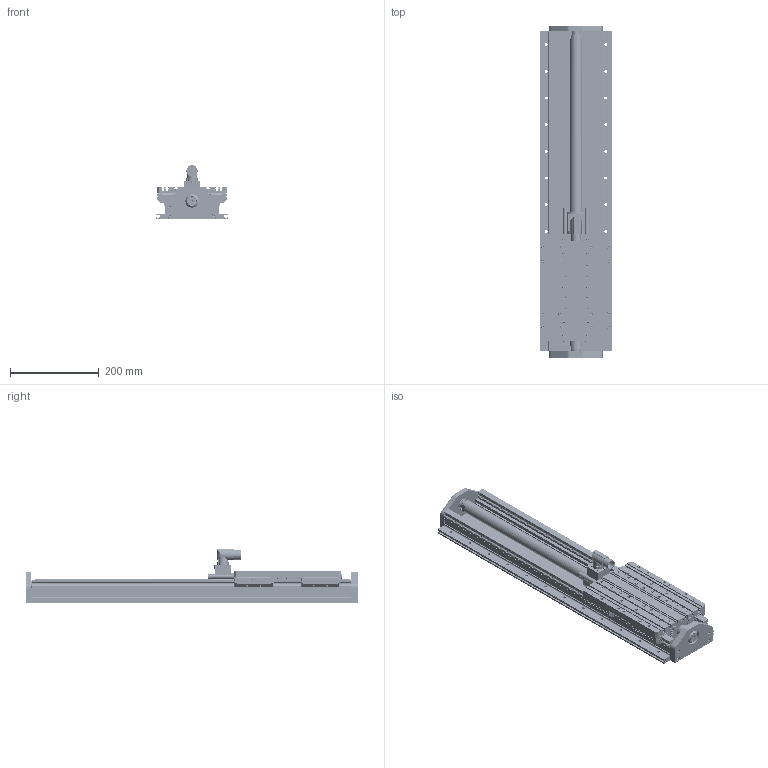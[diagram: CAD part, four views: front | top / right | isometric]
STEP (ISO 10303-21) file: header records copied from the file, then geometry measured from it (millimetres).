
FILE_DESCRIPTION(/* description */ (''),/* implementation_level */ '2;1');
FILE_NAME(/* name */ 'V:\CAD\Inventor-Stp\Linearmotorelement\GLMA 48-240\5000063.stp',/* time_stamp */ '2024-10-22T08:17:46+02:00',/* author */ ('ul'),/* organization */ (''),/* preprocessor_version */ 'ST-DEVELOPER v17',/* originating_system */ 'Autodesk Inventor 2018',/* authorisation */ '');
FILE_SCHEMA (('AUTOMOTIVE_DESIGN { 1 0 10303 214 3 1 1 }'));
Products named in the file (1): 5000063
Bounding box: 160 x 747 x 121.5 mm (x, y, z)
Volume: 3781805.6 mm3; surface area: 937491 mm2
Topology: 5 solids, 146 shells, 4398 faces, 12607 edges, 8519 vertices
Faces by surface type: plane 2971, cylinder 1057, cone 251, torus 110, bspline 9
Full cylindrical faces by diameter (mm): 3.242 x56, 3.3 x4, 3.5 x4, 4 x76, 4.134 x16, 4.5 x76, 4.917 x20, 5 x16, 5.5 x32, 6 x12, 6.5 x8, 6.647 x24, 7 x74, 7.5 x34, 8 x32, 8.5 x16, 9 x28, 9.5 x8, 10 x14, 10.4 x1, 10.5 x12, 12 x1, 19 x1, 20 x2, 20.4 x1, 21 x2, 22 x2, 25 x1, 25.5 x1, 25.823 x1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
Entity records: 150490 total; most frequent: CARTESIAN_POINT 27712, ORIENTED_EDGE 24958, DIRECTION 24716, EDGE_CURVE 12479, VERTEX_POINT 8519, AXIS2_PLACEMENT_3D 8360, LINE 7996, VECTOR 7996
